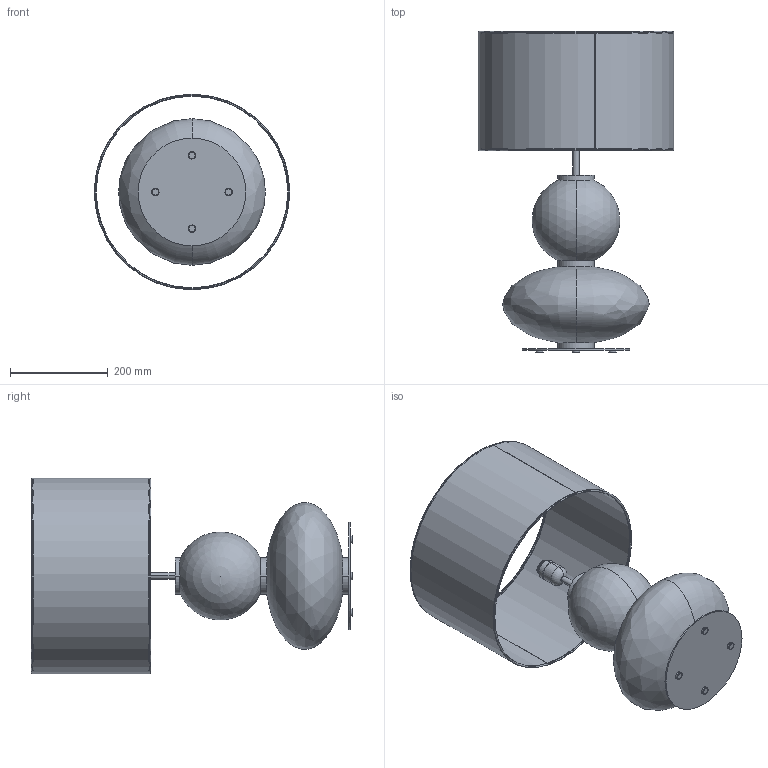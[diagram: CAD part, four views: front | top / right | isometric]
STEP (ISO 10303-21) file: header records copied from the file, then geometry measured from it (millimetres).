
FILE_DESCRIPTION (( 'STEP AP214' ), '1' );
FILE_NAME ('MAPI_NAC143.STEP', '2025-03-14T09:07:12', ( '' ), ( '' ), 'SwSTEP 2.0', 'SolidWorks 2018', '' );
FILE_SCHEMA (( 'AUTOMOTIVE_DESIGN' ));
Length unit declared in the file: millimetre
Products named in the file (1): MAPI_NAC143
Bounding box: 399.91 x 657.12 x 399.91 mm (x, y, z)
Volume: 11213090.9 mm3; surface area: 1055377 mm2
Topology: 13 solids, 15 shells, 138 faces, 311 edges, 196 vertices
Faces by surface type: cylinder 74, plane 28, torus 26, bspline 8, sphere 2
Entity records: 10537 total; most frequent: CARTESIAN_POINT 6001, ORIENTED_EDGE 612, DIRECTION 593, EDGE_CURVE 306, AXIS2_PLACEMENT_3D 259, VERTEX_POINT 193, UNCERTAINTY_MEASURE_WITH_UNIT 153, FILL_AREA_STYLE 152
